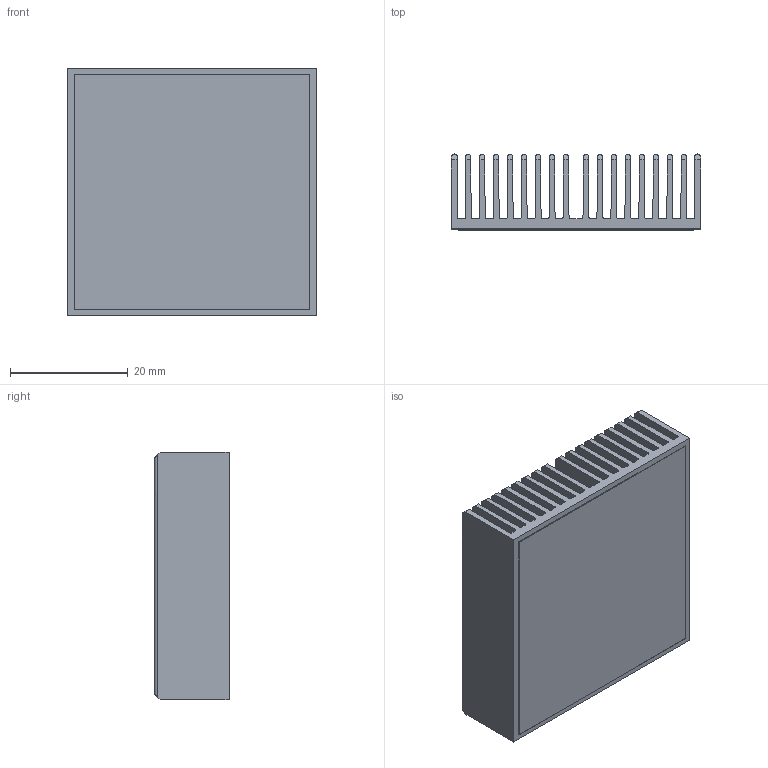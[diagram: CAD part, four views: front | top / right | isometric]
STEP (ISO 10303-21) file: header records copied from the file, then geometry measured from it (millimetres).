
FILE_DESCRIPTION (( 'STEP AP214' ), '1' );
FILE_NAME ('INL42.5001-13-1.7.STEP', '2023-03-01T18:26:24', ( '' ), ( '' ), 'SwSTEP 2.0', 'SolidWorks 2020', '' );
FILE_SCHEMA (( 'AUTOMOTIVE_DESIGN' ));
Length unit declared in the file: millimetre
Products named in the file (1): INL42.5001-13-1.7
Bounding box: 42.3 x 12.83 x 42 mm (x, y, z)
Volume: 10796 mm3; surface area: 23448.9 mm2
Topology: 2 solids, 2 shells, 150 faces, 438 edges, 292 vertices
Faces by surface type: plane 98, cylinder 52
Entity records: 6623 total; most frequent: CARTESIAN_POINT 989, ORIENTED_EDGE 876, DIRECTION 772, EDGE_CURVE 438, VECTOR 334, LINE 334, VERTEX_POINT 292, AXIS2_PLACEMENT_3D 219
